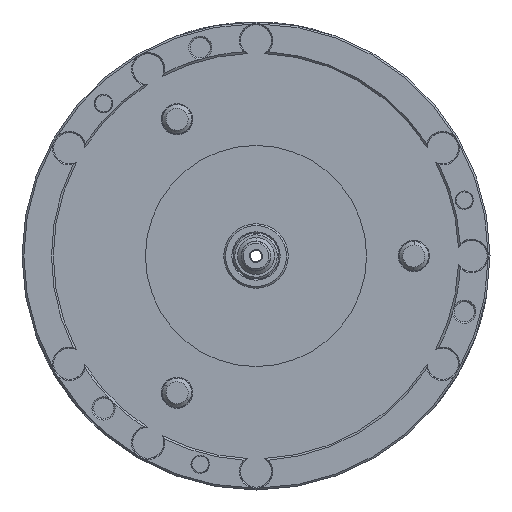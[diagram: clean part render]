
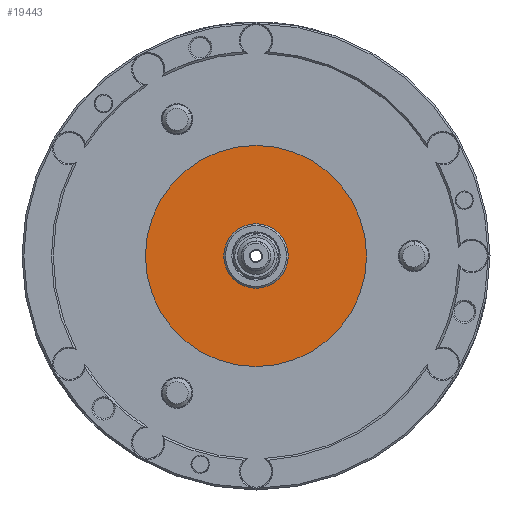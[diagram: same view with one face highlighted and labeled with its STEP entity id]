
A CAD part, left-side view. The second image highlights one B-rep face of the part: STEP entity #19443.
In plain terms, the highlighted planar face has unit normal (-1, 0, 0).
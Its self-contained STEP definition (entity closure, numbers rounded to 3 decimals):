
#912 = CARTESIAN_POINT ( 'NONE',  ( -103., 0., 0. ) ) ;
#2639 = EDGE_CURVE ( 'NONE', #56461, #48416, #37920, .T. ) ;
#5463 = DIRECTION ( 'NONE',  ( 0., 0., -1. ) ) ;
#7132 = CARTESIAN_POINT ( 'NONE',  ( -103., 60., 0. ) ) ;
#7705 = VERTEX_POINT ( 'NONE', #44991 ) ;
#9030 = AXIS2_PLACEMENT_3D ( 'NONE', #20304, #52294, #24883 ) ;
#11949 = CARTESIAN_POINT ( 'NONE',  ( -103., 3.039, -17.234 ) ) ;
#12704 = CIRCLE ( 'NONE', #57670, 60. ) ;
#16203 = DIRECTION ( 'NONE',  ( -1., 0., 0. ) ) ;
#16500 = CIRCLE ( 'NONE', #18479, 17.5 ) ;
#17737 = FACE_OUTER_BOUND ( 'NONE', #50455, .T. ) ;
#18479 = AXIS2_PLACEMENT_3D ( 'NONE', #54104, #26693, #58712 ) ;
#18957 = CARTESIAN_POINT ( 'NONE',  ( -103., -3.039, 17.234 ) ) ;
#19187 = FACE_BOUND ( 'NONE', #21733, .T. ) ;
#19443 = ADVANCED_FACE ( 'NONE', ( #17737, #19187 ), #34387, .T. ) ;
#19909 = EDGE_CURVE ( 'NONE', #23523, #7705, #35566, .T. ) ;
#20304 = CARTESIAN_POINT ( 'NONE',  ( -103., 0., 0. ) ) ;
#21224 = CARTESIAN_POINT ( 'NONE',  ( -103., 0., 60. ) ) ;
#21733 = EDGE_LOOP ( 'NONE', ( #28863, #36441 ) ) ;
#23523 = VERTEX_POINT ( 'NONE', #21224 ) ;
#24717 = CARTESIAN_POINT ( 'NONE',  ( -103., 0., 0. ) ) ;
#24883 = DIRECTION ( 'NONE',  ( 0., 0., -1. ) ) ;
#26693 = DIRECTION ( 'NONE',  ( -1., 0., 0. ) ) ;
#28863 = ORIENTED_EDGE ( 'NONE', *, *, #36534, .F. ) ;
#29300 = DIRECTION ( 'NONE',  ( 0., 0., -1. ) ) ;
#30663 = ORIENTED_EDGE ( 'NONE', *, *, #19909, .F. ) ;
#32096 = EDGE_CURVE ( 'NONE', #7705, #23523, #12704, .T. ) ;
#32753 = DIRECTION ( 'NONE',  ( 1., 0., 0. ) ) ;
#34387 = PLANE ( 'NONE',  #58270 ) ;
#35566 = CIRCLE ( 'NONE', #49854, 60. ) ;
#36441 = ORIENTED_EDGE ( 'NONE', *, *, #2639, .F. ) ;
#36534 = EDGE_CURVE ( 'NONE', #48416, #56461, #16500, .T. ) ;
#37920 = CIRCLE ( 'NONE', #9030, 17.5 ) ;
#38916 = ORIENTED_EDGE ( 'NONE', *, *, #32096, .F. ) ;
#44991 = CARTESIAN_POINT ( 'NONE',  ( -103., 0., -60. ) ) ;
#48173 = DIRECTION ( 'NONE',  ( 0., 0., 1. ) ) ;
#48416 = VERTEX_POINT ( 'NONE', #11949 ) ;
#49854 = AXIS2_PLACEMENT_3D ( 'NONE', #24717, #56746, #29300 ) ;
#50455 = EDGE_LOOP ( 'NONE', ( #38916, #30663 ) ) ;
#52294 = DIRECTION ( 'NONE',  ( -1., 0., 0. ) ) ;
#54104 = CARTESIAN_POINT ( 'NONE',  ( -103., 0., 0. ) ) ;
#56461 = VERTEX_POINT ( 'NONE', #18957 ) ;
#56746 = DIRECTION ( 'NONE',  ( 1., 0., 0. ) ) ;
#57670 = AXIS2_PLACEMENT_3D ( 'NONE', #912, #32753, #5463 ) ;
#58270 = AXIS2_PLACEMENT_3D ( 'NONE', #7132, #16203, #48173 ) ;
#58712 = DIRECTION ( 'NONE',  ( 0., 0., -1. ) ) ;
